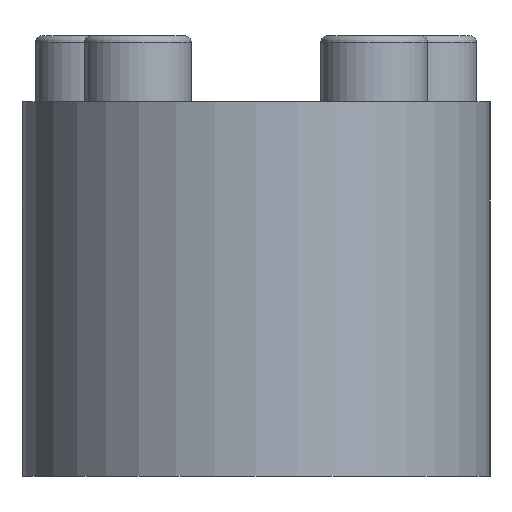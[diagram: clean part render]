
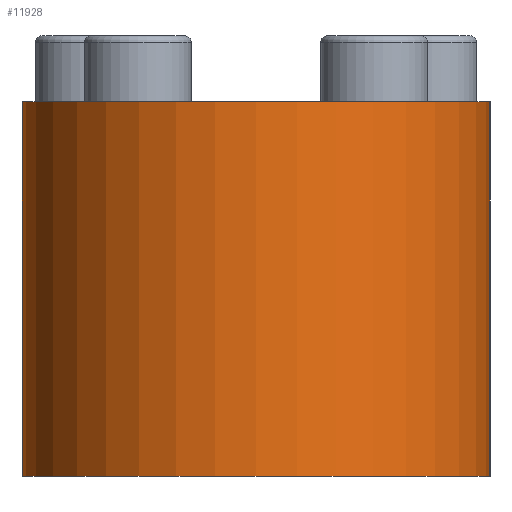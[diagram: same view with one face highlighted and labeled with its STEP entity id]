
A CAD part, left-side view. The second image highlights one B-rep face of the part: STEP entity #11928.
In plain terms, the highlighted cylindrical face has radius 35 mm (diameter 70 mm), a partial arc.
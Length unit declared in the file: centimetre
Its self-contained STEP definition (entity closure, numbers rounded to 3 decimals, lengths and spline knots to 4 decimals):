
#962=CYLINDRICAL_SURFACE('',#12668,3.5);
#1854=FACE_OUTER_BOUND('',#2631,.T.);
#2631=EDGE_LOOP('',(#9319,#9320,#9321,#9322));
#3518=LINE('',#17582,#4552);
#3519=LINE('',#17586,#4553);
#4552=VECTOR('',#13962,5.6);
#4553=VECTOR('',#13967,5.6);
#5143=CIRCLE('',#12370,3.5);
#5215=CIRCLE('',#12669,3.5);
#5228=VERTEX_POINT('',#15026);
#5229=VERTEX_POINT('',#15028);
#5918=VERTEX_POINT('',#17580);
#5919=VERTEX_POINT('',#17584);
#6356=EDGE_CURVE('',#5228,#5229,#5143,.T.);
#7184=EDGE_CURVE('',#5918,#5229,#3518,.T.);
#7185=EDGE_CURVE('',#5918,#5919,#5215,.T.);
#7186=EDGE_CURVE('',#5919,#5228,#3519,.T.);
#9319=ORIENTED_EDGE('',*,*,#7185,.F.);
#9320=ORIENTED_EDGE('',*,*,#7184,.T.);
#9321=ORIENTED_EDGE('',*,*,#6356,.F.);
#9322=ORIENTED_EDGE('',*,*,#7186,.F.);
#11928=ADVANCED_FACE('',(#1854),#962,.T.);
#12370=AXIS2_PLACEMENT_3D('',#15029,#12924,#12925);
#12668=AXIS2_PLACEMENT_3D('',#17583,#13963,#13964);
#12669=AXIS2_PLACEMENT_3D('',#17585,#13965,#13966);
#12924=DIRECTION('center_axis',(0.,0.,
1.));
#12925=DIRECTION('ref_axis',(0.,1.,0.));
#13962=DIRECTION('',(0.,0.,1.));
#13963=DIRECTION('center_axis',(0.,0.,1.));
#13964=DIRECTION('ref_axis',(0.,-1.,0.));
#13965=DIRECTION('center_axis',(0.,0.,-1.));
#13966=DIRECTION('ref_axis',(0.,-1.,0.));
#13967=DIRECTION('',(0.,0.,1.));
#15026=CARTESIAN_POINT('',(-21.3,3.5,5.6));
#15028=CARTESIAN_POINT('',(-21.3,-3.5,5.6));
#15029=CARTESIAN_POINT('Origin',(-21.3,0.,5.6));
#17580=CARTESIAN_POINT('',(-21.3,-3.5,0.));
#17582=CARTESIAN_POINT('',(-21.3,-3.5,0.));
#17583=CARTESIAN_POINT('Origin',(-21.3,0.,0.));
#17584=CARTESIAN_POINT('',(-21.3,3.5,0.));
#17585=CARTESIAN_POINT('Origin',(-21.3,0.,0.));
#17586=CARTESIAN_POINT('',(-21.3,3.5,0.));
